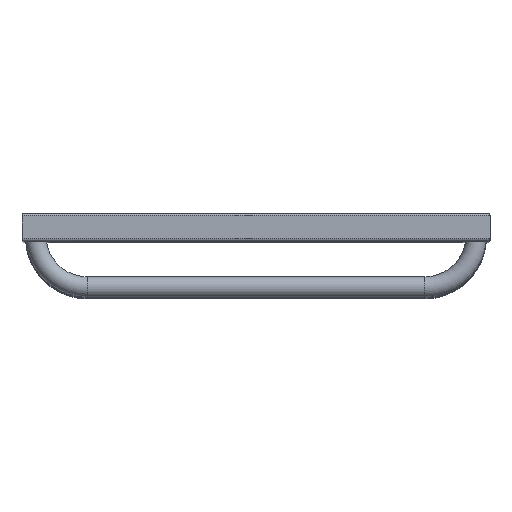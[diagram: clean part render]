
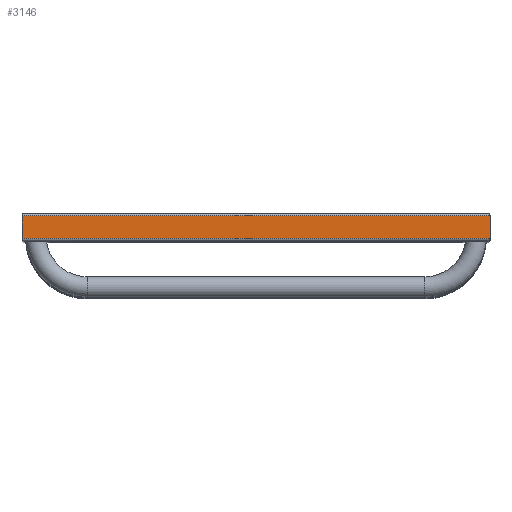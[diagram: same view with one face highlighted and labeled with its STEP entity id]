
A CAD part, top view. The second image highlights one B-rep face of the part: STEP entity #3146.
In plain terms, the highlighted planar face has unit normal (0, 0, 1).
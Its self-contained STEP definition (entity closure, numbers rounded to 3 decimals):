
#243=CARTESIAN_POINT('',(250.0,12.,1055.0));
#244=VERTEX_POINT('',#243);
#251=CARTESIAN_POINT('',(250.0,-12.,1055.0));
#252=VERTEX_POINT('',#251);
#253=CARTESIAN_POINT('',(250.0,12.,1055.0));
#254=DIRECTION('',(0.0,-1.0,0.0));
#255=VECTOR('',#254,24.);
#256=LINE('',#253,#255);
#257=EDGE_CURVE('',#244,#252,#256,.T.);
#2997=CARTESIAN_POINT('',(-250.0,12.,1055.0));
#2998=VERTEX_POINT('',#2997);
#2999=CARTESIAN_POINT('',(-250.0,12.,1055.0));
#3000=DIRECTION('',(1.0,0.0,0.0));
#3001=VECTOR('',#3000,500.0);
#3002=LINE('',#2999,#3001);
#3003=EDGE_CURVE('',#2998,#244,#3002,.T.);
#3041=CARTESIAN_POINT('',(-250.0,-12.,1055.0));
#3042=VERTEX_POINT('',#3041);
#3049=CARTESIAN_POINT('',(-250.0,-12.,1055.0));
#3050=DIRECTION('',(0.0,1.0,0.0));
#3051=VECTOR('',#3050,24.);
#3052=LINE('',#3049,#3051);
#3053=EDGE_CURVE('',#3042,#2998,#3052,.T.);
#3105=CARTESIAN_POINT('',(250.0,-12.,1055.0));
#3106=DIRECTION('',(-1.0,0.0,0.0));
#3107=VECTOR('',#3106,500.0);
#3108=LINE('',#3105,#3107);
#3109=EDGE_CURVE('',#252,#3042,#3108,.T.);
#3135=CARTESIAN_POINT('',(235.0,0.,1055.0));
#3136=DIRECTION('',(0.0,0.0,1.0));
#3137=DIRECTION('',(1.0,0.0,0.0));
#3138=AXIS2_PLACEMENT_3D('',#3135,#3136,#3137);
#3139=PLANE('',#3138);
#3140=ORIENTED_EDGE('',*,*,#3003,.F.);
#3141=ORIENTED_EDGE('',*,*,#3053,.F.);
#3142=ORIENTED_EDGE('',*,*,#3109,.F.);
#3143=ORIENTED_EDGE('',*,*,#257,.F.);
#3144=EDGE_LOOP('',(#3140,#3141,#3142,#3143));
#3145=FACE_OUTER_BOUND('',#3144,.T.);
#3146=ADVANCED_FACE('',(#3145),#3139,.T.);
